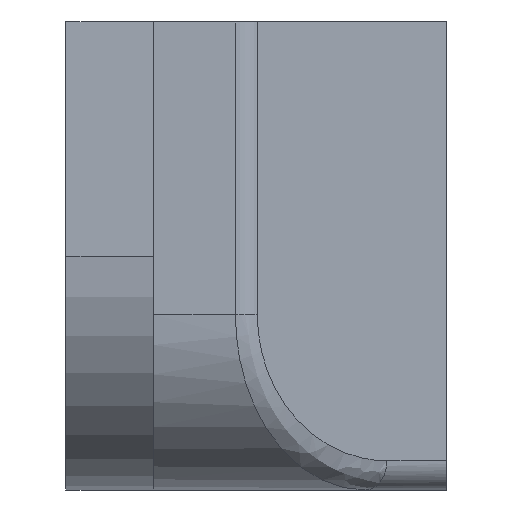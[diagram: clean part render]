
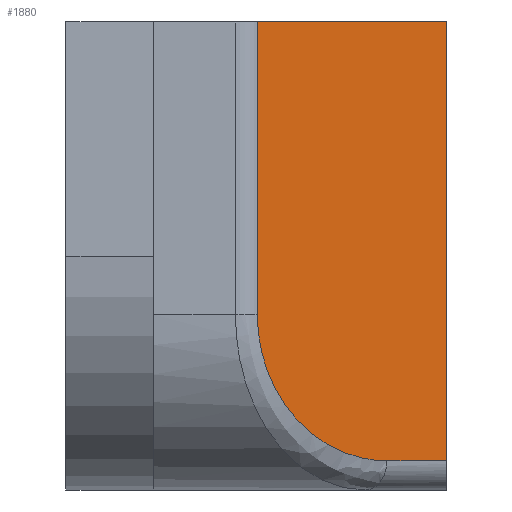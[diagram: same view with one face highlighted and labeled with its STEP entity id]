
A CAD part, left-side view. The second image highlights one B-rep face of the part: STEP entity #1880.
In plain terms, the highlighted planar face has unit normal (-0.663, -0.748, 0).
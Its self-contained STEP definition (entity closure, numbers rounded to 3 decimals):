
#135 = EDGE_CURVE ( 'NONE', #210, #1806, #902, .T. ) ;
#203 = DIRECTION ( 'NONE',  ( -0.748, 0.663, 0. ) ) ;
#210 = VERTEX_POINT ( 'NONE', #986 ) ;
#360 = FACE_OUTER_BOUND ( 'NONE', #574, .T. ) ;
#367 = CARTESIAN_POINT ( 'NONE',  ( -5.082, 1.011, -3.5 ) ) ;
#417 = LINE ( 'NONE', #1803, #931 ) ;
#442 = DIRECTION ( 'NONE',  ( 0.663, 0.748, 0. ) ) ;
#482 = CARTESIAN_POINT ( 'NONE',  ( -3.941, 0., 4. ) ) ;
#484 = VERTEX_POINT ( 'NONE', #1714 ) ;
#574 = EDGE_LOOP ( 'NONE', ( #1500, #795, #1242, #1542, #1184 ) ) ;
#662 = EDGE_CURVE ( 'NONE', #1295, #484, #417, .T. ) ;
#664 = DIRECTION ( 'NONE',  ( 0., 0., 1. ) ) ;
#674 = CARTESIAN_POINT ( 'NONE',  ( -7.75, 3.377, -4. ) ) ;
#758 = CARTESIAN_POINT ( 'NONE',  ( -3.941, 0., -3.5 ) ) ;
#795 = ORIENTED_EDGE ( 'NONE', *, *, #2243, .T. ) ;
#860 = CARTESIAN_POINT ( 'NONE',  ( -5.082, 1.011, -3.5 ) ) ;
#902 =( BOUNDED_CURVE ( )  B_SPLINE_CURVE ( 3, ( #1584, #1348, #1103, #860 ),
 .UNSPECIFIED., .F., .F. ) 
 B_SPLINE_CURVE_WITH_KNOTS ( ( 4, 4 ),
 ( 0., 1.571 ),
 .UNSPECIFIED. ) 
 CURVE ( )  GEOMETRIC_REPRESENTATION_ITEM ( )  RATIONAL_B_SPLINE_CURVE ( ( 1., 0.805, 0.805, 1. ) ) 
 REPRESENTATION_ITEM ( '' )  );
#905 = CARTESIAN_POINT ( 'NONE',  ( -3.941, 0., -4. ) ) ;
#915 = PLANE ( 'NONE',  #1600 ) ;
#929 = DIRECTION ( 'NONE',  ( 0.748, -0.663, 0. ) ) ;
#931 = VECTOR ( 'NONE', #1559, 1000. ) ;
#986 = CARTESIAN_POINT ( 'NONE',  ( -7.582, 3.228, -1. ) ) ;
#1103 = CARTESIAN_POINT ( 'NONE',  ( -6.546, 2.31, -3.5 ) ) ;
#1110 = DIRECTION ( 'NONE',  ( 0., 0., -1. ) ) ;
#1150 = LINE ( 'NONE', #905, #1206 ) ;
#1173 = CARTESIAN_POINT ( 'NONE',  ( -3.941, 0., -3.5 ) ) ;
#1184 = ORIENTED_EDGE ( 'NONE', *, *, #1395, .T. ) ;
#1206 = VECTOR ( 'NONE', #664, 1000. ) ;
#1242 = ORIENTED_EDGE ( 'NONE', *, *, #135, .T. ) ;
#1295 = VERTEX_POINT ( 'NONE', #482 ) ;
#1327 = VERTEX_POINT ( 'NONE', #758 ) ;
#1348 = CARTESIAN_POINT ( 'NONE',  ( -7.582, 3.228, -2.464 ) ) ;
#1355 = CARTESIAN_POINT ( 'NONE',  ( -7.582, 3.228, -4. ) ) ;
#1395 = EDGE_CURVE ( 'NONE', #1327, #1295, #1150, .T. ) ;
#1416 = LINE ( 'NONE', #1173, #1639 ) ;
#1500 = ORIENTED_EDGE ( 'NONE', *, *, #662, .T. ) ;
#1542 = ORIENTED_EDGE ( 'NONE', *, *, #2018, .T. ) ;
#1559 = DIRECTION ( 'NONE',  ( -0.748, 0.663, 0. ) ) ;
#1584 = CARTESIAN_POINT ( 'NONE',  ( -7.582, 3.228, -1. ) ) ;
#1590 = LINE ( 'NONE', #1355, #1828 ) ;
#1600 = AXIS2_PLACEMENT_3D ( 'NONE', #674, #442, #203 ) ;
#1639 = VECTOR ( 'NONE', #929, 1000. ) ;
#1714 = CARTESIAN_POINT ( 'NONE',  ( -7.582, 3.228, 4. ) ) ;
#1803 = CARTESIAN_POINT ( 'NONE',  ( -7.75, 3.377, 4. ) ) ;
#1806 = VERTEX_POINT ( 'NONE', #367 ) ;
#1828 = VECTOR ( 'NONE', #1110, 1000. ) ;
#1880 = ADVANCED_FACE ( 'NONE', ( #360 ), #915, .F. ) ;
#2018 = EDGE_CURVE ( 'NONE', #1806, #1327, #1416, .T. ) ;
#2243 = EDGE_CURVE ( 'NONE', #484, #210, #1590, .T. ) ;
